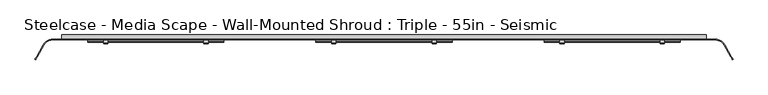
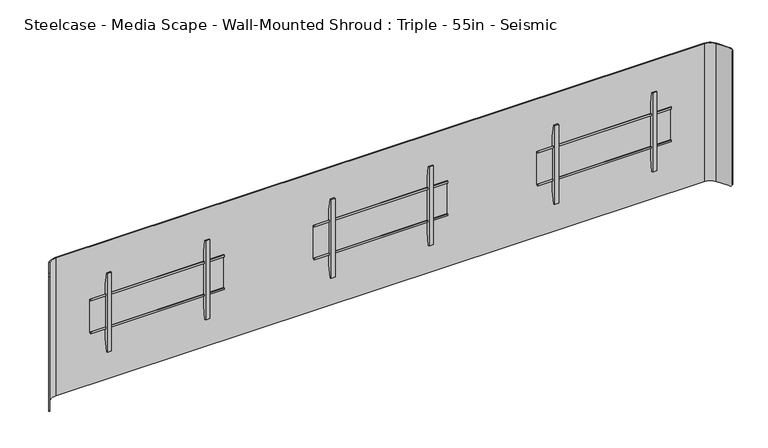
"""IFC4 building model written with IfcOpenShell, lengths in millimetres: furniture geometry, Steelcase - Media Scape - Wall-Mounted Shroud : Triple - 55in - Seismic."""

from ifc_helpers import new_model, si_unit, frame, origin, place, context, project, spatial, polyline, circle_curve, outline, extrude, source, transform, mapped, element, save
from ifc_brep_helpers import plane_surface, cylinder_surface, revolved_surface, advanced_brep


def steelcase_media_scape_wall_mounted_shroud_triple_55in_44b6645d(model_context):
    return source(origin(), model_context, "Body", "SolidModel", [
        extrude(outline(polyline([(-42.4942785, 1383.7004726), (-42.4942785, 1395.7145649), (-39.8272175, 1395.7145649), (-39.8272175, 1386.367461), (-29.9720009, 1386.367461), (-29.9720009, 1172.0422438), (-42.3164551, 1172.0422438), (-42.3164551, 1182.9642515), (-39.649394, 1182.9642515), (-39.649394, 1174.707052), (-32.6531824, 1174.707052), (-32.6531824, 1383.7004726), (-42.4942785, 1383.7004726)])), frame((955.675, 0.0, 0.0), z_axis=(1.0, 0.0, 0.0), x_axis=(0.0, 1.0, 0.0)), (0.0, 0.0, 1.0), 812.8),
        extrude(outline(polyline([(-32.6531824, 1454.6471148), (-32.6531824, 1102.8325607), (-46.5049349, 1025.2046949), (-53.3399828, 1025.2046949), (-53.3399828, 1533.2047192), (-46.5050076, 1533.2047192), (-32.6531824, 1454.6471148)])), frame((1049.276426, 0.0, 0.0), z_axis=(1.0, 0.0, 0.0), x_axis=(0.0, 1.0, 0.0)), (0.0, 0.0, 1.0), 26.1592872),
        extrude(outline(polyline([(-32.6531824, 1454.6471148), (-32.6531824, 1102.8325607), (-46.5049349, 1025.2046949), (-53.3399828, 1025.2046949), (-53.3399828, 1533.2047192), (-46.5050076, 1533.2047192), (-32.6531824, 1454.6471148)])), frame((1648.7142868, 0.0, 0.0), z_axis=(1.0, 0.0, 0.0), x_axis=(0.0, 1.0, 0.0)), (0.0, 0.0, 1.0), 26.1592872),
        extrude(outline(polyline([(-42.4942785, 1383.7004726), (-42.4942785, 1395.7145649), (-39.8272175, 1395.7145649), (-39.8272175, 1386.367461), (-29.9720009, 1386.367461), (-29.9720009, 1172.0422438), (-42.3164551, 1172.0422438), (-42.3164551, 1182.9642515), (-39.649394, 1182.9642515), (-39.649394, 1174.707052), (-32.6531824, 1174.707052), (-32.6531824, 1383.7004726), (-42.4942785, 1383.7004726)])), frame((-1768.475, 0.0, 0.0), z_axis=(1.0, 0.0, 0.0), x_axis=(0.0, 1.0, 0.0)), (0.0, 0.0, 1.0), 812.8),
        extrude(outline(polyline([(-32.6531824, 1454.6471148), (-32.6531824, 1102.8325607), (-46.5049349, 1025.2046949), (-53.3399828, 1025.2046949), (-53.3399828, 1533.2047192), (-46.5050076, 1533.2047192), (-32.6531824, 1454.6471148)])), frame((-1075.4357132, 0.0, 0.0), z_axis=(1.0, 0.0, 0.0), x_axis=(0.0, 1.0, 0.0)), (0.0, 0.0, 1.0), 26.1592872),
        extrude(outline(polyline([(-32.6531824, 1454.6471148), (-32.6531824, 1102.8325607), (-46.5049349, 1025.2046949), (-53.3399828, 1025.2046949), (-53.3399828, 1533.2047192), (-46.5050076, 1533.2047192), (-32.6531824, 1454.6471148)])), frame((-1674.873574, 0.0, 0.0), z_axis=(1.0, 0.0, 0.0), x_axis=(0.0, 1.0, 0.0)), (0.0, 0.0, 1.0), 26.1592872),
        extrude(outline(polyline([(-42.4942785, 1383.7004726), (-42.4942785, 1395.7145649), (-39.8272175, 1395.7145649), (-39.8272175, 1386.367461), (-29.9720009, 1386.367461), (-29.9720009, 1172.0422438), (-42.3164551, 1172.0422438), (-42.3164551, 1182.9642515), (-39.649394, 1182.9642515), (-39.649394, 1174.707052), (-32.6531824, 1174.707052), (-32.6531824, 1383.7004726), (-42.4942785, 1383.7004726)])), frame((-406.4, 0.0, 0.0), z_axis=(1.0, 0.0, 0.0), x_axis=(0.0, 1.0, 0.0)), (0.0, 0.0, 1.0), 812.8),
        extrude(outline(polyline([(-32.6531824, 1454.6471148), (-32.6531824, 1102.8325607), (-46.5049349, 1025.2046949), (-53.3399828, 1025.2046949), (-53.3399828, 1533.2047192), (-46.5050076, 1533.2047192), (-32.6531824, 1454.6471148)])), frame((286.6392868, 0.0, 0.0), z_axis=(1.0, 0.0, 0.0), x_axis=(0.0, 1.0, 0.0)), (0.0, 0.0, 1.0), 26.1592872),
        extrude(outline(polyline([(-32.6531824, 1454.6471148), (-32.6531824, 1102.8325607), (-46.5049349, 1025.2046949), (-53.3399828, 1025.2046949), (-53.3399828, 1533.2047192), (-46.5050076, 1533.2047192), (-32.6531824, 1454.6471148)])), frame((-312.798574, 0.0, 0.0), z_axis=(1.0, 0.0, 0.0), x_axis=(0.0, 1.0, 0.0)), (0.0, 0.0, 1.0), 26.1592872),
        extrude(outline(polyline([(1924.05, -25.4), (-1924.05, -25.4), (-1924.05, 0.0), (1924.05, 0.0), (1924.05, -25.4)])), frame((0.0, 0.0, 835.914), z_axis=(0.0, 0.0, 1.0), x_axis=(1.0, 0.0, 0.0)), (0.0, 0.0, 1.0), 76.2508167),
        advanced_brep(
        [(-2030.8586135, -61.722, 1724.914), (-1975.866002, -29.9720009, 1724.914), (1975.866, -29.9720009, 1724.914), (2030.8586135, -61.722, 1724.914), (2070.979586, -131.2135628, 1724.914), (2074.9390541, -128.9275628, 1724.914), (2034.8180817, -59.436, 1724.914), (1975.866002, -25.4, 1724.914), (-1975.866, -25.4, 1724.914), (-2034.8180817, -59.436, 1724.914), (-2074.9421659, -128.9329524, 1724.914), (-2070.9826977, -131.2189524, 1724.914), (-2034.8180817, -59.436, 835.914), (-1975.866002, -25.4, 835.914), (1975.866, -25.4, 835.914), (2034.8180817, -59.436, 835.914), (2074.9906629, -129.0169518, 835.914), (2071.0311948, -131.3029518, 835.914), (2030.8586135, -61.722, 835.914), (1975.866002, -29.9720009, 835.914), (-1975.866, -29.9720009, 835.914), (-2030.8586135, -61.722, 835.914), (-2071.0454014, -131.3275584, 835.914), (-2075.0048695, -129.0415584, 835.914), (-2084.5090632, -145.5033047, 849.5242766), (-2084.5090632, -145.5033047, 1710.9227735), (-2080.5495951, -147.7893047, 1710.9227735), (-2080.5495951, -147.7893047, 849.5242766), (2080.5270866, -147.7503189, 849.4756893), (2080.5270866, -147.7503189, 1711.0433849), (2084.4865547, -145.4643189, 1711.0433849), (2084.4865547, -145.4643189, 849.4756893)],
        [
            (0, 1, circle_curve(frame((-1975.866002, -93.4719991, 1724.914), z_axis=(0.0, 0.0, -1.0), x_axis=(0.0, 1.0, 0.0)), 63.4999981)),
            (1, 2),
            (2, 3, circle_curve(frame((1975.866002, -93.4719991, 1724.914), z_axis=(0.0, 0.0, -1.0), x_axis=(0.0, 1.0, 0.0)), 63.4999981)),
            (3, 4),
            (4, 5),
            (5, 6),
            (6, 7, circle_curve(frame((1975.8660004, -93.472, 1724.914), z_axis=(0.0, 0.0, 1.0), x_axis=(0.0, 1.0, 0.0)), 68.072)),
            (7, 8),
            (8, 9, circle_curve(frame((-1975.8660004, -93.472, 1724.914), z_axis=(0.0, 0.0, 1.0), x_axis=(0.0, 1.0, 0.0)), 68.072)),
            (9, 10),
            (10, 11),
            (11, 0),
            (12, 13, circle_curve(frame((-1975.8660004, -93.472, 835.914), z_axis=(0.0, 0.0, -1.0), x_axis=(0.0, 1.0, 0.0)), 68.072)),
            (13, 14),
            (14, 15, circle_curve(frame((1975.8660004, -93.472, 835.914), z_axis=(0.0, 0.0, -1.0), x_axis=(0.0, 1.0, 0.0)), 68.072)),
            (15, 16),
            (16, 17),
            (17, 18),
            (18, 19, circle_curve(frame((1975.866002, -93.4719991, 835.914), z_axis=(0.0, 0.0, 1.0), x_axis=(0.0, 1.0, 0.0)), 63.4999981)),
            (19, 20),
            (20, 21, circle_curve(frame((-1975.866002, -93.4719991, 835.914), z_axis=(0.0, 0.0, 1.0), x_axis=(0.0, 1.0, 0.0)), 63.4999981)),
            (21, 22),
            (22, 23),
            (23, 12),
            (0, 21),
            (20, 1),
            (8, 13),
            (12, 9),
            (23, 24, circle_curve(frame((-2075.0048695, -129.0415584, 855.9928872), z_axis=(-0.8660254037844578, 0.49999999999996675, 0.0), x_axis=(-0.49999999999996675, -0.8660254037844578, 0.0)), 20.0788872)),
            (24, 25),
            (25, 10, circle_curve(frame((-2074.9421659, -128.9329524, 1704.8351128), z_axis=(-0.866025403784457, 0.49999999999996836, 0.0), x_axis=(-0.49999999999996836, -0.866025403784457, 0.0)), 20.0788872)),
            (26, 25),
            (24, 27),
            (27, 26),
            (11, 26, circle_curve(frame((-2070.9826977, -131.2189524, 1704.8351128), z_axis=(0.866025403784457, -0.49999999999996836, 0.0), x_axis=(-0.49999999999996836, -0.866025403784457, 0.0)), 20.0788872)),
            (27, 22, circle_curve(frame((-2071.0454014, -131.3275584, 855.9928872), z_axis=(0.8660254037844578, -0.49999999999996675, 0.0), x_axis=(-0.49999999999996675, -0.8660254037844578, 0.0)), 20.0788872)),
            (7, 14),
            (19, 2),
            (3, 18),
            (17, 28, circle_curve(frame((2071.0311948, -131.3029518, 855.9928872), z_axis=(-0.8660254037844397, -0.49999999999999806, 0.0), x_axis=(0.49999999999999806, -0.8660254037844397, 0.0)), 20.0788872)),
            (28, 29),
            (29, 4, circle_curve(frame((2070.979586, -131.2135628, 1704.8351128), z_axis=(-0.8660254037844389, -0.49999999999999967, 0.0), x_axis=(0.49999999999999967, -0.8660254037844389, 0.0)), 20.0788872)),
            (30, 29),
            (28, 31),
            (31, 30),
            (15, 6),
            (5, 30, circle_curve(frame((2074.9390541, -128.9275628, 1704.8351128), z_axis=(0.8660254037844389, 0.49999999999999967, 0.0), x_axis=(0.49999999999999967, -0.8660254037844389, 0.0)), 20.0788872)),
            (31, 16, circle_curve(frame((2074.9906629, -129.0169518, 855.9928872), z_axis=(0.8660254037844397, 0.49999999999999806, 0.0), x_axis=(0.49999999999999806, -0.8660254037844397, 0.0)), 20.0788872)),
        ],
        [
            plane_surface(frame((-1975.866002, -29.9720009, 1724.914), z_axis=(0.0, 0.0, 1.0), x_axis=(1.0, 0.0, 0.0))),
            plane_surface(frame((-1975.866002, -29.9720009, 835.914), z_axis=(0.0, 0.0, -1.0), x_axis=(-1.0, 0.0, 0.0))),
            revolved_surface(polyline([(-1975.866002, -29.972001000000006, 835.914), (-1975.866002, -29.972001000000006, 1724.914)]), (-1975.866002, -93.4719991, 835.914), (0.0, 0.0, -1.0)),
            cylinder_surface(frame((-1975.8660004, -93.472, 835.914), z_axis=(0.0, 0.0, 1.0), x_axis=(0.0, 1.0, 0.0)), 68.072),
            plane_surface(frame((-2034.8180817, -59.436, 1724.914), z_axis=(-0.866025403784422, 0.5000000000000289, 0.0), x_axis=(0.0, 0.0, -1.0))),
            plane_surface(frame((-2084.5090632, -145.5033047, 1724.914), z_axis=(-0.5000000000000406, -0.8660254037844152, 0.0), x_axis=(0.0, 0.0, -1.0))),
            plane_surface(frame((-2080.5495951, -147.7893047, 1724.914), z_axis=(0.8660254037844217, -0.5000000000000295, 0.0), x_axis=(0.0, 0.0, -1.0))),
            plane_surface(frame((1975.866, -25.4, 1724.914), z_axis=(0.0, 1.0, 0.0), x_axis=(0.0, 0.0, -1.0))),
            plane_surface(frame((-1975.866, -29.9720009, 1724.914), z_axis=(0.0, -1.0, 0.0), x_axis=(0.0, 0.0, -1.0))),
            plane_surface(frame((2030.8586135, -61.722, 1724.914), z_axis=(-0.8660254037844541, -0.4999999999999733, 0.0), x_axis=(0.0, 0.0, -1.0))),
            plane_surface(frame((2080.5270866, -147.7503189, 1724.914), z_axis=(0.4999999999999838, -0.866025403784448, 0.0), x_axis=(0.0, 0.0, -1.0))),
            plane_surface(frame((2084.4865547, -145.4643189, 1724.914), z_axis=(0.8660254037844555, 0.49999999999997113, 0.0), x_axis=(0.0, 0.0, -1.0))),
            cylinder_surface(frame((1975.8660004, -93.472, 835.914), z_axis=(0.0, 0.0, 1.0), x_axis=(0.0, 1.0, 0.0)), 68.072),
            revolved_surface(polyline([(1975.866002, -29.972001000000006, 835.914), (1975.866002, -29.972001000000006, 1724.914)]), (1975.866002, -93.4719991, 835.914), (0.0, 0.0, -1.0)),
            cylinder_surface(frame((-2070.9826977, -131.2189524, 1704.8351128), z_axis=(0.866025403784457, -0.49999999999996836, 0.0), x_axis=(-0.49999999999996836, -0.866025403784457, 0.0)), 20.0788872),
            cylinder_surface(frame((-2071.0454014, -131.3275584, 855.9928872), z_axis=(0.8660254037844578, -0.49999999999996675, 0.0), x_axis=(-0.49999999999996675, -0.8660254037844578, 0.0)), 20.0788872),
            cylinder_surface(frame((2086.0864297, -122.4916225, 1704.8351128), z_axis=(0.8660254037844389, 0.49999999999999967, 0.0), x_axis=(0.49999999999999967, -0.8660254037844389, 0.0)), 20.0788872),
            cylinder_surface(frame((2083.2789695, -124.2316958, 855.9928872), z_axis=(0.8660254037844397, 0.49999999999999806, 0.0), x_axis=(0.49999999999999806, -0.8660254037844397, 0.0)), 20.0788872),
        ],
        [
            (0, [[1, 2, 3, 4, 5, 6, 7, 8, 9, 10, 11, 12]]),
            (1, [[13, 14, 15, 16, 17, 18, 19, 20, 21, 22, 23, 24]]),
            (2, [[-1, 25, -21, 26]]),
            (3, [[-9, 27, -13, 28]]),
            (4, [[-28, -24, 29, 30, 31, -10]]),
            (5, [[32, -30, 33, 34]]),
            (6, [[-25, -12, 35, -34, 36, -22]]),
            (7, [[-8, 37, -14, -27]]),
            (8, [[-2, -26, -20, 38]]),
            (9, [[39, -18, 40, 41, 42, -4]]),
            (10, [[43, -41, 44, 45]]),
            (11, [[46, -6, 47, -45, 48, -16]]),
            (12, [[-7, -46, -15, -37]]),
            (13, [[-3, -38, -19, -39]]),
            (14, [[-11, -31, -32, -35]]),
            (15, [[-23, -36, -33, -29]]),
            (16, [[-5, -42, -43, -47]]),
            (17, [[-17, -48, -44, -40]]),
        ],
    ),
        extrude(outline(polyline([(912.1648167, 1860.5499879), (912.1648167, 1924.05), (1648.714, 1924.05), (1648.714, -1924.05), (912.1648167, -1924.05), (912.1648167, -1861.5433465), (1585.2139516, -1861.5433465), (1585.2139516, 1860.5499879), (912.1648167, 1860.5499879)])), frame((0.0, -25.4, 0.0), z_axis=(0.0, 1.0, 0.0), x_axis=(0.0, 0.0, 1.0)), (0.0, 0.0, 1.0), 25.4),
    ])


if __name__ == "__main__":
    model = new_model("IFC4")
    model_context = context("Model", 3, world=origin())
    ifc_project = project(units=[si_unit("LENGTHUNIT", "METRE", prefix="MILLI")], contexts=[model_context])
    site = spatial("IfcSite", under=ifc_project)
    building = spatial("IfcBuilding", under=site)
    placement = place(None, origin())
    steelcase_media_scape_wall_mounted_shroud_triple_55in_shape = steelcase_media_scape_wall_mounted_shroud_triple_55in_44b6645d(model_context)
    element("IfcFurniture", 1, ObjectType="Steelcase - Media Scape - Wall-Mounted Shroud : Triple - 55in - Seismic", at=placement, inside=building, context=model_context, shape_type="MappedRepresentation", body=[
        mapped(steelcase_media_scape_wall_mounted_shroud_triple_55in_shape, transform((0.0, 0.0, 0.0), x_axis=(1.0, 0.0, 0.0), y_axis=(0.0, 1.0, 0.0), z_axis=(0.0, 0.0, 1.0))),
    ])
    save(model, "model.ifc")
